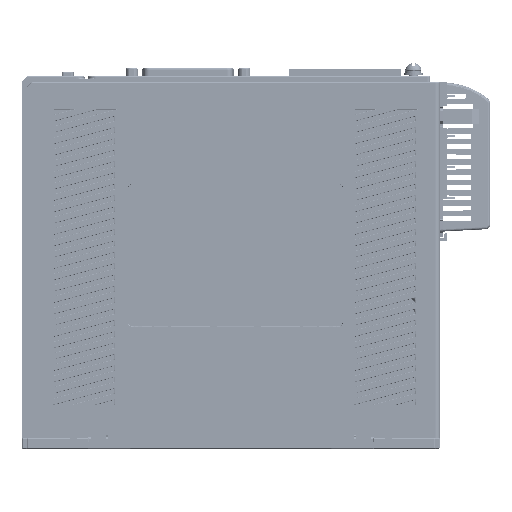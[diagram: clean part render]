
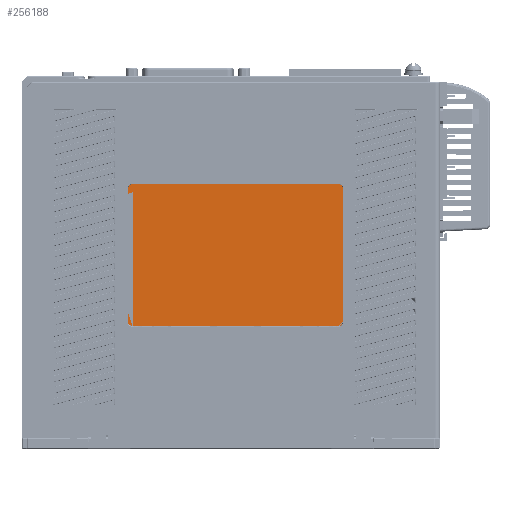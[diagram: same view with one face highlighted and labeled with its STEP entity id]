
A CAD part, left-side view. The second image highlights one B-rep face of the part: STEP entity #256188.
In plain terms, the highlighted planar face has unit normal (-1, 0, 0) as drawn and (0, 0, -1) by its records, which use the part's own axes.
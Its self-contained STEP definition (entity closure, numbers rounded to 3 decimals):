
#219503=DIRECTION('',(0.,1.,0.));
#219504=VECTOR('',#219503,55.6);
#219505=CARTESIAN_POINT('',(-43.1,-108.9,
-19.5));
#219506=LINE('',#219505,#219504);
#219507=CARTESIAN_POINT('',(-43.1,-53.3,
-19.5));
#219512=CARTESIAN_POINT('',(-43.1,-108.9,
-19.5));
#219521=DIRECTION('',(-1.,0.,0.));
#219522=VECTOR('',#219521,86.);
#219523=CARTESIAN_POINT('',(44.9,-110.9,
-19.5));
#219524=LINE('',#219523,#219522);
#219525=CARTESIAN_POINT('',(-41.1,-110.9,
-19.5));
#219530=CARTESIAN_POINT('',(44.9,-110.9,
-19.5));
#219539=DIRECTION('',(0.,-1.,0.));
#219540=VECTOR('',#219539,55.6);
#219541=CARTESIAN_POINT('',(46.9,-53.3,
-19.5));
#219542=LINE('',#219541,#219540);
#219543=CARTESIAN_POINT('',(46.9,-108.9,
-19.5));
#219548=CARTESIAN_POINT('',(46.9,-53.3,
-19.5));
#219557=DIRECTION('',(1.,0.,0.));
#219558=VECTOR('',#219557,86.);
#219559=CARTESIAN_POINT('',(-41.1,-51.3,
-19.5));
#219560=LINE('',#219559,#219558);
#219561=CARTESIAN_POINT('',(44.9,-51.3,
-19.5));
#219566=CARTESIAN_POINT('',(-41.1,-53.3,
-19.5));
#219567=DIRECTION('',(0.,0.,1.));
#219568=DIRECTION('',(0.,1.,0.));
#219569=AXIS2_PLACEMENT_3D('',#219566,#219567,#219568);
#219571=CARTESIAN_POINT('',(-41.1,-108.9,
-19.5));
#219572=DIRECTION('',(0.,0.,1.));
#219573=DIRECTION('',(-1.,0.,0.));
#219574=AXIS2_PLACEMENT_3D('',#219571,#219572,#219573);
#219576=CARTESIAN_POINT('',(44.9,-108.9,
-19.5));
#219577=DIRECTION('',(0.,0.,1.));
#219578=DIRECTION('',(0.,-1.,
0.));
#219579=AXIS2_PLACEMENT_3D('',#219576,#219577,#219578);
#219581=CARTESIAN_POINT('',(44.9,-53.3,
-19.5));
#219582=DIRECTION('',(0.,0.,1.));
#219583=DIRECTION('',(1.,0.,0.));
#219584=AXIS2_PLACEMENT_3D('',#219581,#219582,#219583);
#232591=VERTEX_POINT('',#219507);
#232592=CARTESIAN_POINT('',(-41.1,-51.3,
-19.5));
#232593=VERTEX_POINT('',#232592);
#232594=VERTEX_POINT('',#219512);
#232595=VERTEX_POINT('',#219525);
#232596=VERTEX_POINT('',#219530);
#232597=VERTEX_POINT('',#219543);
#232598=VERTEX_POINT('',#219548);
#232599=VERTEX_POINT('',#219561);
#256173=CARTESIAN_POINT('',(0.,-156.,-19.5));
#256174=DIRECTION('',(0.,0.,-1.));
#256175=DIRECTION('',(-1.,0.,0.));
#256176=AXIS2_PLACEMENT_3D('',#256173,#256174,#256175);
#256177=PLANE('',#256176);
#256178=ORIENTED_EDGE('',*,*,#256031,.T.);
#256179=ORIENTED_EDGE('',*,*,#256051,.F.);
#256180=ORIENTED_EDGE('',*,*,#256071,.T.);
#256181=ORIENTED_EDGE('',*,*,#256090,.F.);
#256182=ORIENTED_EDGE('',*,*,#256110,.T.);
#256183=ORIENTED_EDGE('',*,*,#256129,.F.);
#256184=ORIENTED_EDGE('',*,*,#256149,.T.);
#256185=ORIENTED_EDGE('',*,*,#256167,.F.);
#256186=EDGE_LOOP('',(#256178,#256179,#256180,#256181,#256182,#256183,#256184,
#256185));
#256187=FACE_OUTER_BOUND('',#256186,.F.);
#219570=CIRCLE('',#219569,2.);
#219575=CIRCLE('',#219574,2.);
#219580=CIRCLE('',#219579,2.);
#219585=CIRCLE('',#219584,2.);
#256031=EDGE_CURVE('',#232593,#232591,#219570,.T.);
#256051=EDGE_CURVE('',#232594,#232591,#219506,.T.);
#256071=EDGE_CURVE('',#232594,#232595,#219575,.T.);
#256090=EDGE_CURVE('',#232596,#232595,#219524,.T.);
#256110=EDGE_CURVE('',#232596,#232597,#219580,.T.);
#256129=EDGE_CURVE('',#232598,#232597,#219542,.T.);
#256149=EDGE_CURVE('',#232598,#232599,#219585,.T.);
#256167=EDGE_CURVE('',#232593,#232599,#219560,.T.);
#256188=ADVANCED_FACE('',(#256187),#256177,.T.);
